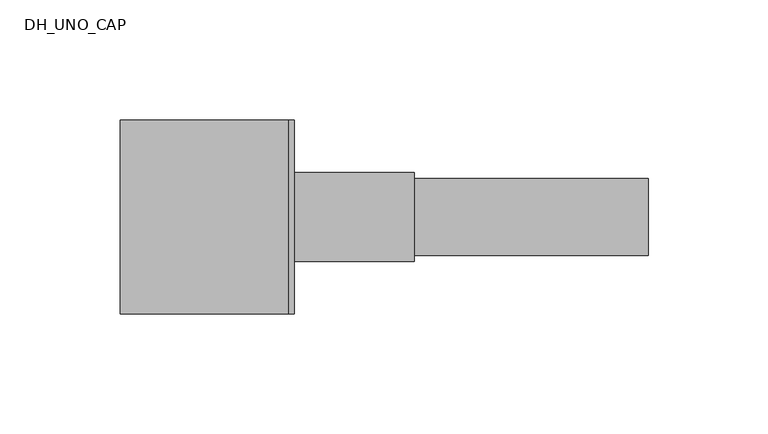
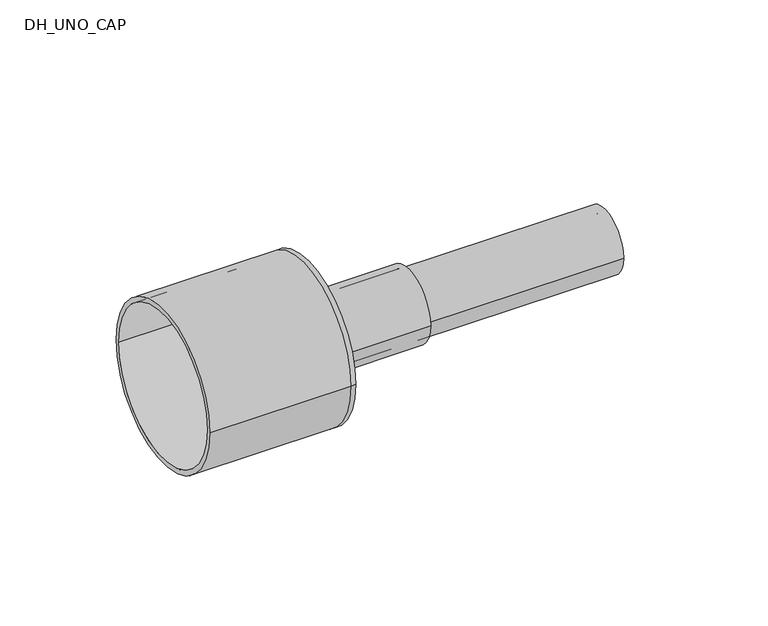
"""IFC4 building model written with IfcOpenShell, lengths in millimetres: pipe fitting geometry, DH_UNO_CAP : RAUTHERMEX UNO 7.4 DW - Schrink Cap."""

from ifc_helpers import new_model, si_unit, point, frame, origin, origin_2d, place, context, project, spatial, polyline, circle_curve, trimmed, segment, composite_curve, outline, extrude, source, transform, mapped, element, save
from ifc_brep_helpers import plane_surface, cylinder_surface, revolved_surface, advanced_brep


def dh_uno_cap_14c8f1f0(model_context):
    return source(origin(), model_context, "Body", "SolidModel", [
        extrude(outline(composite_curve([segment(trimmed(circle_curve(origin_2d(), 16.0), [point((-16.0, 0.0))], [point((16.0, 0.0))], False, "CARTESIAN"), True, "CONTINUOUS"), segment(trimmed(circle_curve(origin_2d(), 16.0), [point((16.0, 0.0))], [point((-16.0, 0.0))], False, "CARTESIAN"), True, "CONTINUOUS")], self_intersect=False), holes=[composite_curve([segment(trimmed(circle_curve(origin_2d(), 11.6), [point((-11.6, 0.0))], [point((11.6, 0.0))], True, "CARTESIAN"), True, "CONTINUOUS"), segment(trimmed(circle_curve(origin_2d(), 11.6), [point((11.6, 0.0))], [point((-11.6, 0.0))], True, "CARTESIAN"), True, "CONTINUOUS")], self_intersect=False)]), frame((0.0, 0.0, 0.0), z_axis=(1.0, 0.0, 0.0), x_axis=(0.0, 1.0, 0.0)), (0.0, 0.0, 1.0), 150.0),
        advanced_brep(
        [(-70.0, -40.5, 0.0), (-70.0, 40.5, 0.0), (-70.0, -38.0, 0.0), (-70.0, 38.0, 0.0), (0.0, -38.0, 0.0), (0.0, 38.0, 0.0), (0.0, -40.5, 0.0), (0.0, 40.5, 0.0), (0.0, 16.0, 0.0), (0.0, -16.0, 0.0), (2.5, -40.5, 0.0), (2.5, 40.5, 0.0), (2.5, -16.0, 0.0), (2.5, 16.0, 0.0)],
        [
            (0, 1, circle_curve(frame((-70.0, 0.0, 0.0), z_axis=(-1.0, 0.0, 0.0), x_axis=(0.0, 1.0, 0.0)), 40.5)),
            (1, 0, circle_curve(frame((-70.0, 0.0, 0.0), z_axis=(-1.0, 0.0, 0.0), x_axis=(0.0, 1.0, 0.0)), 40.5)),
            (2, 3, circle_curve(frame((-70.0, 0.0, 0.0), z_axis=(1.0, 0.0, 0.0), x_axis=(0.0, 1.0, 0.0)), 38.0)),
            (3, 2, circle_curve(frame((-70.0, 0.0, 0.0), z_axis=(1.0, 0.0, 0.0), x_axis=(0.0, 1.0, 0.0)), 38.0)),
            (2, 4),
            (4, 5, circle_curve(frame((0.0, 0.0, 0.0), z_axis=(1.0, 0.0, 0.0), x_axis=(0.0, 1.0, 0.0)), 38.0)),
            (5, 3),
            (5, 4, circle_curve(frame((0.0, 0.0, 0.0), z_axis=(1.0, 0.0, 0.0), x_axis=(0.0, 1.0, 0.0)), 38.0)),
            (0, 6),
            (6, 7, circle_curve(frame((0.0, 0.0, 0.0), z_axis=(-1.0, 0.0, 0.0), x_axis=(0.0, 1.0, 0.0)), 40.5)),
            (7, 1),
            (7, 6, circle_curve(frame((0.0, 0.0, 0.0), z_axis=(-1.0, 0.0, 0.0), x_axis=(0.0, 1.0, 0.0)), 40.5)),
            (8, 9, circle_curve(frame((0.0, 0.0, 0.0), z_axis=(1.0, 0.0, 0.0), x_axis=(0.0, 1.0, 0.0)), 16.0)),
            (9, 8, circle_curve(frame((0.0, 0.0, 0.0), z_axis=(1.0, 0.0, 0.0), x_axis=(0.0, 1.0, 0.0)), 16.0)),
            (10, 11, circle_curve(frame((2.5, 0.0, 0.0), z_axis=(1.0, 0.0, 0.0), x_axis=(0.0, 1.0, 0.0)), 40.5)),
            (11, 10, circle_curve(frame((2.5, 0.0, 0.0), z_axis=(1.0, 0.0, 0.0), x_axis=(0.0, 1.0, 0.0)), 40.5)),
            (12, 13, circle_curve(frame((2.5, 0.0, 0.0), z_axis=(-1.0, 0.0, 0.0), x_axis=(0.0, 1.0, 0.0)), 16.0)),
            (13, 12, circle_curve(frame((2.5, 0.0, 0.0), z_axis=(-1.0, 0.0, 0.0), x_axis=(0.0, 1.0, 0.0)), 16.0)),
            (11, 7),
            (6, 10),
            (8, 13),
            (12, 9),
        ],
        [
            plane_surface(frame((-70.0, 0.0, 0.0), z_axis=(-1.0, 0.0, 0.0), x_axis=(0.0, 0.0, 1.0))),
            revolved_surface(polyline([(0.0, 38.0, 0.0), (-70.0, 38.0, 0.0)]), (-70.0, 0.0, 0.0), (1.0, 0.0, 0.0)),
            cylinder_surface(frame((-70.0, 0.0, 0.0), z_axis=(-1.0, 0.0, 0.0), x_axis=(0.0, 1.0, 0.0)), 40.5),
            plane_surface(frame((0.0, 0.0, 0.0), z_axis=(-1.0, 0.0, 0.0), x_axis=(0.0, 0.0, 1.0))),
            plane_surface(frame((2.5, 0.0, 0.0), z_axis=(1.0, 0.0, 0.0), x_axis=(0.0, 0.0, 1.0))),
            cylinder_surface(frame((0.0, 0.0, 0.0), z_axis=(-1.0, 0.0, 0.0), x_axis=(0.0, 1.0, 0.0)), 40.5),
            revolved_surface(polyline([(0.0, 16.0, 0.0), (2.5, 16.0, 0.0)]), (0.0, 0.0, 0.0), (-1.0, 0.0, 0.0)),
        ],
        [
            (0, [[1, 2], [3, 4]]),
            (1, [[-3, 5, 6, 7]]),
            (1, [[-4, -7, 8, -5]]),
            (2, [[-1, 9, 10, 11]]),
            (2, [[-2, -11, 12, -9]]),
            (3, [[-6, -8], [13, 14]]),
            (4, [[15, 16], [17, 18]]),
            (5, [[-16, 19, -10, 20]]),
            (5, [[-15, -20, -12, -19]]),
            (6, [[21, -17, 22, -13]]),
            (6, [[-21, -14, -22, -18]]),
        ],
    ),
        extrude(outline(composite_curve([segment(trimmed(circle_curve(origin_2d(), 18.5), [point((-18.5, 0.0))], [point((18.5, 0.0))], False, "CARTESIAN"), True, "CONTINUOUS"), segment(trimmed(circle_curve(origin_2d(), 18.5), [point((18.5, 0.0))], [point((-18.5, 0.0))], False, "CARTESIAN"), True, "CONTINUOUS")], self_intersect=False), holes=[composite_curve([segment(trimmed(circle_curve(origin_2d(), 16.0), [point((-16.0, 0.0))], [point((16.0, 0.0))], True, "CARTESIAN"), True, "CONTINUOUS"), segment(trimmed(circle_curve(origin_2d(), 16.0), [point((16.0, 0.0))], [point((-16.0, 0.0))], True, "CARTESIAN"), True, "CONTINUOUS")], self_intersect=False)]), frame((2.5, 0.0, 0.0), z_axis=(1.0, 0.0, 0.0), x_axis=(0.0, 1.0, 0.0)), (0.0, 0.0, 1.0), 50.0),
    ])


if __name__ == "__main__":
    model = new_model("IFC4")
    model_context = context("Model", 3, world=origin())
    ifc_project = project(units=[si_unit("LENGTHUNIT", "METRE", prefix="MILLI")], contexts=[model_context])
    site = spatial("IfcSite", under=ifc_project)
    building = spatial("IfcBuilding", under=site)
    placement = place(None, origin())
    dh_uno_cap_shape = dh_uno_cap_14c8f1f0(model_context)
    element("IfcPipeFitting", 1, ObjectType="DH_UNO_CAP : RAUTHERMEX UNO 7.4 DW - Schrink Cap", at=placement, inside=building, context=model_context, shape_type="MappedRepresentation", body=[
        mapped(dh_uno_cap_shape, transform((0.0, 0.0, 0.0), x_axis=(1.0, 0.0, 0.0), y_axis=(0.0, 1.0, 0.0), z_axis=(0.0, 0.0, 1.0))),
    ])
    save(model, "model.ifc")
